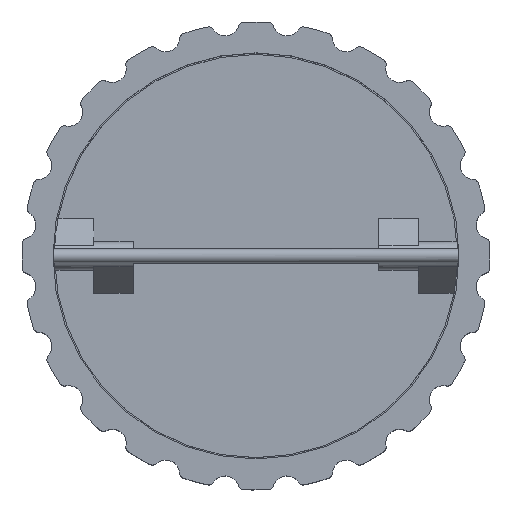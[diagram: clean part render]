
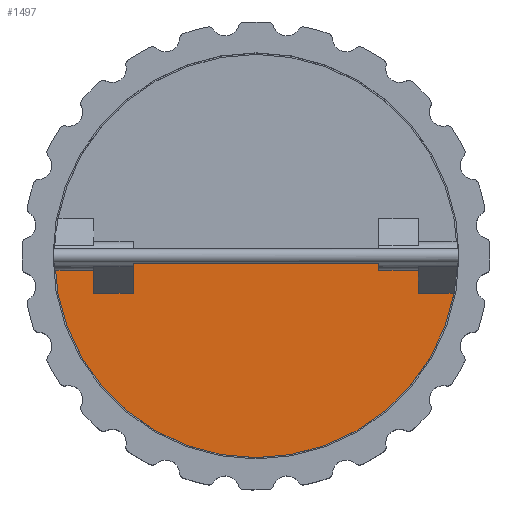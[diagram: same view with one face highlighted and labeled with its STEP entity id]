
A CAD part, top view. The second image highlights one B-rep face of the part: STEP entity #1497.
In plain terms, the highlighted planar face has unit normal (0, 0, 1).
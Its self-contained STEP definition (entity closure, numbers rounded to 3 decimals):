
#1497=ADVANCED_FACE('',(#3583),#3585,.T.);
#3583=FACE_BOUND('',#3584,.T.);
#3584=EDGE_LOOP('',(#5425,#5426,#5427,#5428,#5429,#5430,#5431,#5432));
#3585=PLANE('',#3586);
#3586=AXIS2_PLACEMENT_3D('',#3587,#3588,#3589);
#3587=CARTESIAN_POINT('',(0.,0.,89.));
#3588=DIRECTION('',(0.,0.,1.));
#3589=DIRECTION('',(0.,1.,0.));
#5425=ORIENTED_EDGE('',*,*,#6614,.F.);
#5426=ORIENTED_EDGE('',*,*,#6615,.F.);
#5427=ORIENTED_EDGE('',*,*,#6562,.T.);
#5428=ORIENTED_EDGE('',*,*,#6572,.T.);
#5429=ORIENTED_EDGE('',*,*,#6616,.F.);
#5430=ORIENTED_EDGE('',*,*,#6617,.F.);
#5431=ORIENTED_EDGE('',*,*,#6566,.T.);
#5432=ORIENTED_EDGE('',*,*,#6618,.F.);
#6562=EDGE_CURVE('',#7815,#7813,#7816,.T.);
#6566=EDGE_CURVE('',#7823,#7821,#7824,.T.);
#6572=EDGE_CURVE('',#7813,#7832,#7834,.T.);
#6614=EDGE_CURVE('',#7901,#7902,#7903,.T.);
#6615=EDGE_CURVE('',#7815,#7901,#7904,.T.);
#6616=EDGE_CURVE('',#7905,#7832,#7906,.T.);
#6617=EDGE_CURVE('',#7823,#7905,#7907,.T.);
#6618=EDGE_CURVE('',#7902,#7821,#7908,.F.);
#7813=VERTEX_POINT('',#12053);
#7815=VERTEX_POINT('',#12057);
#7816=LINE('',#12058,#12059);
#7821=VERTEX_POINT('',#12069);
#7823=VERTEX_POINT('',#12073);
#7824=LINE('',#12074,#12075);
#7832=VERTEX_POINT('',#12132);
#7834=CIRCLE('',#12137,358.5);
#7901=VERTEX_POINT('',#12462);
#7902=VERTEX_POINT('',#12463);
#7903=LINE('',#12464,#12465);
#7904=LINE('',#12467,#12468);
#7905=VERTEX_POINT('',#12470);
#7906=LINE('',#12471,#12472);
#7907=LINE('',#12474,#12475);
#7908=LINE('',#12477,#12478);
#12053=CARTESIAN_POINT('',(-358.478,-4.,89.));
#12057=CARTESIAN_POINT('',(-288.522,-4.,89.));
#12058=CARTESIAN_POINT('',(-288.522,-4.,89.));
#12059=VECTOR('',#12060,1.);
#12060=DIRECTION('',(-1.,0.,0.));
#12069=CARTESIAN_POINT('',(-218.522,-4.,89.));
#12073=CARTESIAN_POINT('',(288.478,-4.,89.));
#12074=CARTESIAN_POINT('',(288.478,-4.,89.));
#12075=VECTOR('',#12076,1.);
#12076=DIRECTION('',(-1.,0.,0.));
#12132=CARTESIAN_POINT('',(352.335,-66.199,89.));
#12137=AXIS2_PLACEMENT_3D('',#12138,#12139,#12140);
#12138=CARTESIAN_POINT('',(0.,0.,89.));
#12139=DIRECTION('',(0.,0.,1.));
#12140=DIRECTION('',(-1.,-0.011,0.));
#12462=CARTESIAN_POINT('',(-288.522,-66.199,89.));
#12463=CARTESIAN_POINT('',(-218.522,-66.199,89.));
#12464=CARTESIAN_POINT('',(-288.522,-66.199,89.));
#12465=VECTOR('',#12466,1.);
#12466=DIRECTION('',(1.,0.,0.));
#12467=CARTESIAN_POINT('',(-288.522,-4.,89.));
#12468=VECTOR('',#12469,1.);
#12469=DIRECTION('',(0.,-1.,0.));
#12470=CARTESIAN_POINT('',(288.478,-66.199,89.));
#12471=CARTESIAN_POINT('',(288.478,-66.199,89.));
#12472=VECTOR('',#12473,1.);
#12473=DIRECTION('',(1.,0.,0.));
#12474=CARTESIAN_POINT('',(288.478,-4.,89.));
#12475=VECTOR('',#12476,1.);
#12476=DIRECTION('',(0.,-1.,0.));
#12477=CARTESIAN_POINT('',(-218.522,-4.,89.));
#12478=VECTOR('',#12479,1.);
#12479=DIRECTION('',(0.,-1.,0.));
